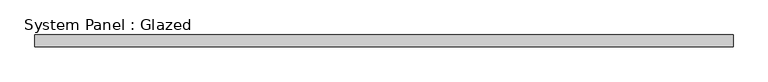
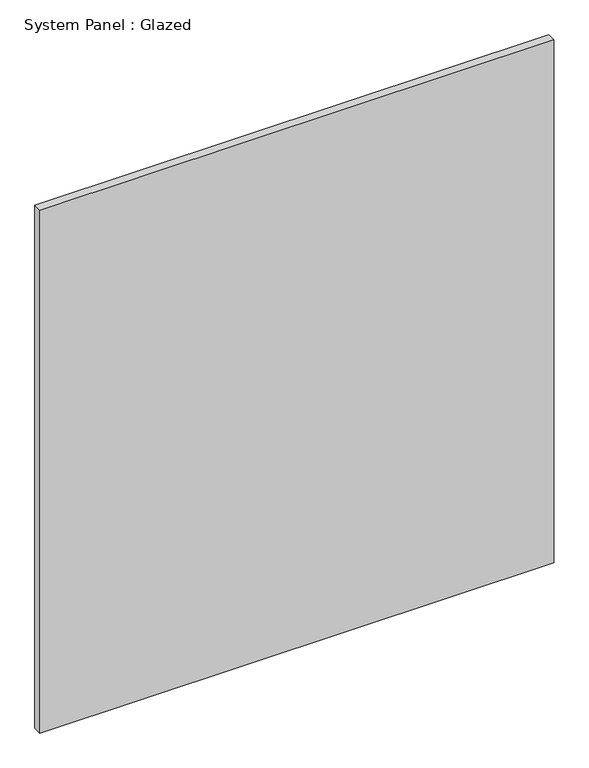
"""IFC4 building model written with IfcOpenShell, lengths in millimetres: plate geometry, System Panel : Glazed."""

from ifc_helpers import new_model, si_unit, origin, origin_with_axes, place, context, project, spatial, polyline, outline, extrude, source, transform, mapped, element, save


def system_panel_glazed_e6de4e38(model_context):
    return source(origin(), model_context, "Body", "SweptSolid", [
        extrude(outline(polyline([(749.3, 19.05), (-749.3, 19.05), (-749.3, 44.45), (749.3, 44.45), (749.3, 19.05)])), origin_with_axes(), (0.0, 0.0, 1.0), 1612.9),
    ])


if __name__ == "__main__":
    model = new_model("IFC4")
    model_context = context("Model", 3, world=origin())
    ifc_project = project(units=[si_unit("LENGTHUNIT", "METRE", prefix="MILLI")], contexts=[model_context])
    site = spatial("IfcSite", under=ifc_project)
    building = spatial("IfcBuilding", under=site)
    placement = place(None, origin())
    system_panel_glazed_shape = system_panel_glazed_e6de4e38(model_context)
    element("IfcPlate", 1, ObjectType="System Panel : Glazed", at=placement, inside=building, context=model_context, shape_type="MappedRepresentation", body=[
        mapped(system_panel_glazed_shape, transform((0.0, 0.0, 0.0), x_axis=(1.0, 0.0, 0.0), y_axis=(0.0, 1.0, 0.0), z_axis=(0.0, 0.0, 1.0))),
    ])
    save(model, "model.ifc")
